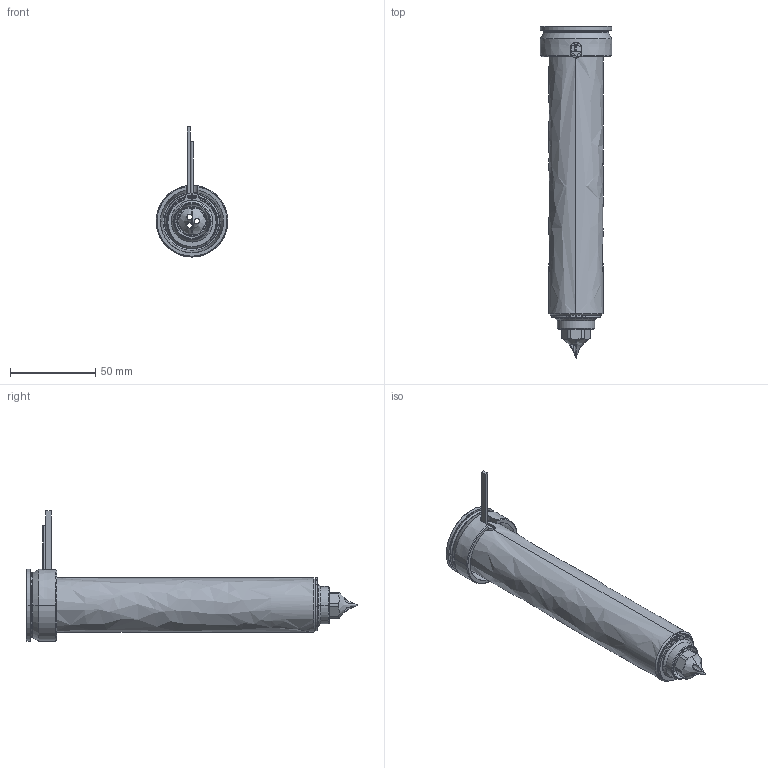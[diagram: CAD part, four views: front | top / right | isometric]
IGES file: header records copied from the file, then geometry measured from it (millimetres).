
Start section: SolidWorks IGES file using analytic representation for surfaces
Global section: file name: C:\Users\luca.EMPAD\Desktop\TEM\UGDL3615-M-A-1 [Øf=0.3 ØC=09].IGS; native system: SolidWorks 2012; preprocessor: SolidWorks 2012; author: luca; date: 120330.155617; units: millimetre
Bounding box: 42 x 194.8 x 76.3 mm (x, y, z)
Surface area: 61950 mm2 (no closed solid volume)
Topology: 0 solids, 0 shells, 125 faces, 2226 edges, 2226 vertices
Faces by surface type: revolution 81, bspline 44
